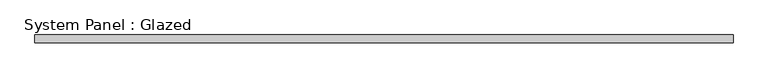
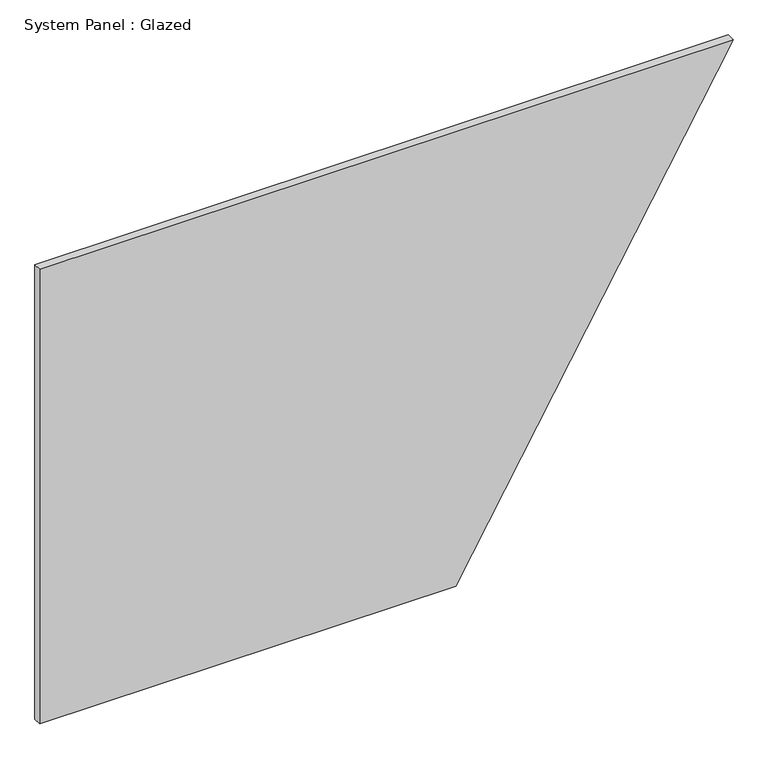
"""IFC4 building model written with IfcOpenShell, lengths in millimetres: plate geometry, System Panel : Glazed."""

from ifc_helpers import new_model, si_unit, frame, origin, place, context, project, spatial, polyline, outline, extrude, source, transform, mapped, element, save


def system_panel_glazed_957c16e9(model_context):
    return source(origin(), model_context, "Body", "SweptSolid", [
        extrude(outline(polyline([(0.0, -1099.2287829), (0.0, 219.3469727), (1524.0, 1099.2287829), (1524.0, -1099.2287829), (0.0, -1099.2287829)])), frame((0.0, 19.05, 0.0), z_axis=(0.0, 1.0, 0.0), x_axis=(0.0, 0.0, 1.0)), (0.0, 0.0, 1.0), 25.4),
    ])


if __name__ == "__main__":
    model = new_model("IFC4")
    model_context = context("Model", 3, world=origin())
    ifc_project = project(units=[si_unit("LENGTHUNIT", "METRE", prefix="MILLI")], contexts=[model_context])
    site = spatial("IfcSite", under=ifc_project)
    building = spatial("IfcBuilding", under=site)
    placement = place(None, origin())
    system_panel_glazed_shape = system_panel_glazed_957c16e9(model_context)
    element("IfcPlate", 1, ObjectType="System Panel : Glazed", at=placement, inside=building, context=model_context, shape_type="MappedRepresentation", body=[
        mapped(system_panel_glazed_shape, transform((0.0, 0.0, 0.0), x_axis=(1.0, 0.0, 0.0), y_axis=(0.0, 1.0, 0.0), z_axis=(0.0, 0.0, 1.0))),
    ])
    save(model, "model.ifc")
